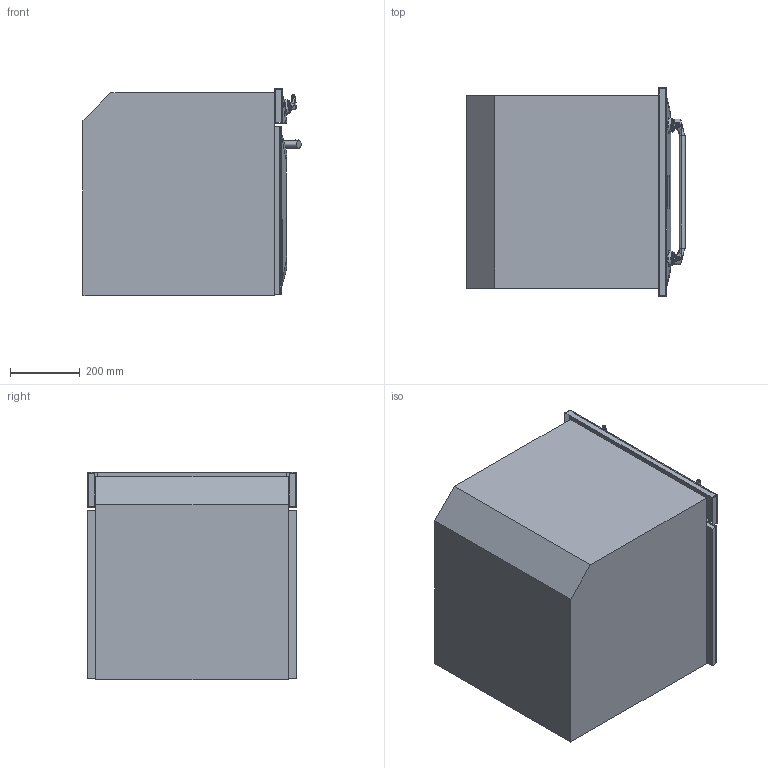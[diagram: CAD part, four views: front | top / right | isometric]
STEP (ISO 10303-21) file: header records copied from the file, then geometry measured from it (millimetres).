
FILE_DESCRIPTION(/* description */ (''),/* implementation_level */ '2;1');
FILE_NAME(/* name */ 'SF6922.stp',/* time_stamp */ '2015-01-14T16:58:42+01:00',/* author */ (''),/* organization */ (''),/* preprocessor_version */ 'ST-DEVELOPER v11',/* originating_system */ 'SIEMENS PLM Software NX 7.5',/* authorisation */ '');
FILE_SCHEMA (('AUTOMOTIVE_DESIGN { 1 0 10303 214 1 1 1 1 }'));
Products named in the file (1): FAVE42CA69op
Bounding box: 623.11 x 597 x 592 mm (x, y, z)
Volume: 179374010.2 mm3; surface area: 3711551 mm2
Topology: 17 solids, 17 shells, 1077 faces, 2564 edges, 1509 vertices
Faces by surface type: cylinder 312, plane 294, bspline 236, torus 115, cone 53, sphere 45, extrusion 22
Full cylindrical faces by diameter (mm): 2 x8, 2.2 x8, 4.5 x2, 5.5 x4, 9 x2, 18 x2, 22 x2, 23.49 x2, 25.11 x2, 31.687 x2, 36 x2, 36.9 x2, 40.5 x2, 46.8 x2
Entity records: 53716 total; most frequent: CARTESIAN_POINT 28881, ORIENTED_EDGE 4806, DIRECTION 4443, EDGE_CURVE 2403, AXIS2_PLACEMENT_3D 1746, VERTEX_POINT 1489, EDGE_LOOP 1246, ADVANCED_FACE 1077
